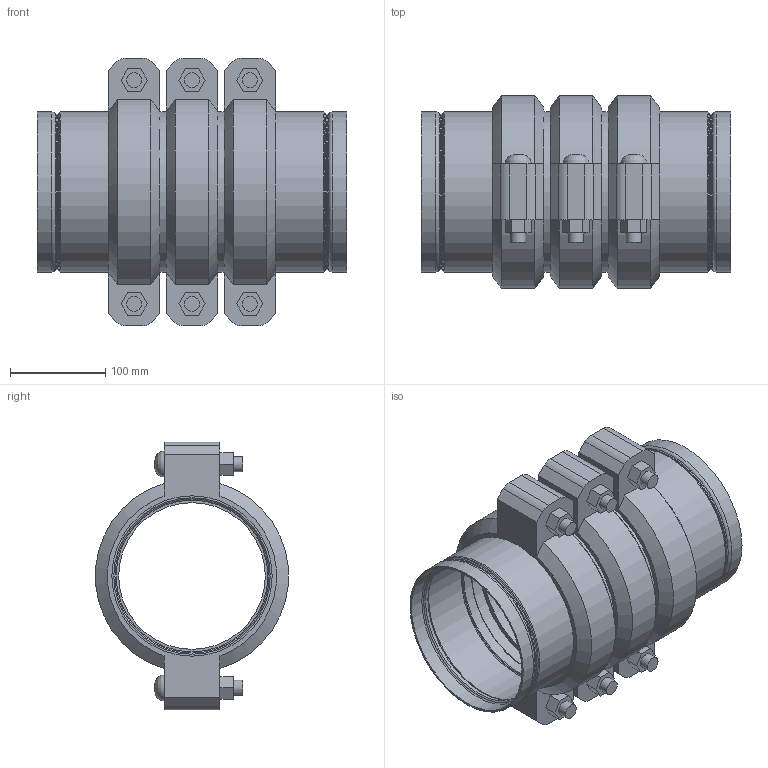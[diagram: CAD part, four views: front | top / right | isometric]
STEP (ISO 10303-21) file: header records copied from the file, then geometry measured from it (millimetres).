
FILE_DESCRIPTION(/* description */ ('VIC STRENGTHIN 100 EXPANSION JOINT 3 COUPLINGS COMPRESSED STYLE E155 (ST1)','CAx-IF Rec.Pracs.---Representation and Presentation of Product Manufacturing Information (PMI)---4.0---2014-10-13'),/* implementation_level */ '2;1');
FILE_NAME(/* name */ 'C:\Users\Vjadhav\AppData\Roaming\Autodesk\ApplicationPlugins\Victaulic.Temp\A21\Victaulic_SS-StrengThin 100_Expansion Joint_Compressed_3 Couplings_Style E155 (ST1)_6 (150).stp',/* time_stamp */ '2021-07-23T12:30:31+05:00',/* author */ ('kkamble'),/* organization */ ('Victaulic'),/* preprocessor_version */ 'ST-DEVELOPER v17.2',/* originating_system */ 'Autodesk Inventor 2019',/* authorisation */ '');
FILE_SCHEMA (('AP242_MANAGED_MODEL_BASED_3D_ENGINEERING_MIM_LF { 1 0 10303 442 1 1 4 }'));
Length unit declared in the file: inch
Products named in the file (4): E155-06.0; E494G-06.0; Nipple-06.0; 075-06.0
Assembly tree (7 placements, depth 2):
  E155-06.0
    E494G-06.0  x2
    Nipple-06.0  x2
    075-06.0  x3
Bounding box: 324.87 x 202.46 x 281.18 mm (x, y, z)
Volume: 2871128 mm3; surface area: 701326.5 mm2
Topology: 7 solids, 13 shells, 251 faces, 663 edges, 472 vertices
Faces by surface type: plane 126, cylinder 71, torus 32, cone 16, bspline 6
Full cylindrical faces by diameter (mm): 15.875 x12, 17.424 x6, 154.051 x2, 159.258 x2, 159.944 x2, 163.271 x2, 163.957 x6, 164.262 x6, 168.275 x15
Entity records: 3615 total; most frequent: DIRECTION 639, CARTESIAN_POINT 639, ORIENTED_EDGE 536, AXIS2_PLACEMENT_3D 271, EDGE_CURVE 268, VERTEX_POINT 193, CIRCLE 163, EDGE_LOOP 123
